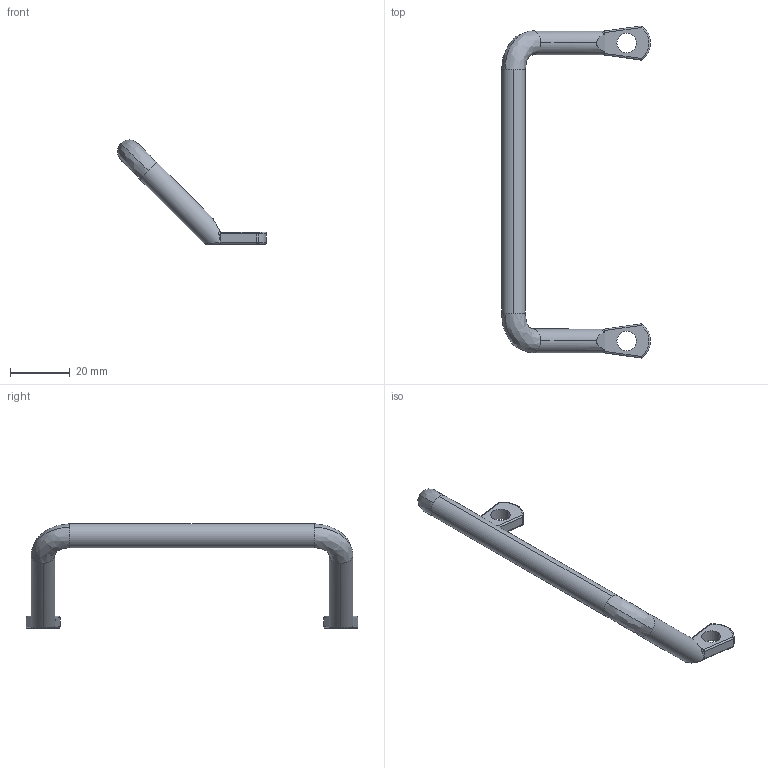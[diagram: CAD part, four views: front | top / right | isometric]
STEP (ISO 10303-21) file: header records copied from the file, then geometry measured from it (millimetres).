
FILE_DESCRIPTION (( 'STEP AP203' ), '1' );
FILE_NAME ('LS31F_100.STEP', '2022-05-11T08:20:25', ( '微软用户' ), ( '微软中国' ), 'SwSTEP 2.0', 'SolidWorks 2018', '' );
FILE_SCHEMA (( 'CONFIG_CONTROL_DESIGN' ));
Length unit declared in the file: millimetre
Products named in the file (1): LS31F_100
Bounding box: 49.99 x 111.43 x 35 mm (x, y, z)
Volume: 9720.4 mm3; surface area: 5339 mm2
Topology: 1 solids, 1 shells, 90 faces, 220 edges, 116 vertices
Faces by surface type: bspline 54, cylinder 26, plane 10
Entity records: 4487 total; most frequent: CARTESIAN_POINT 2755, ORIENTED_EDGE 408, DIRECTION 267, EDGE_CURVE 204, VERTEX_POINT 116, AXIS2_PLACEMENT_3D 113, EDGE_LOOP 94, ADVANCED_FACE 90
